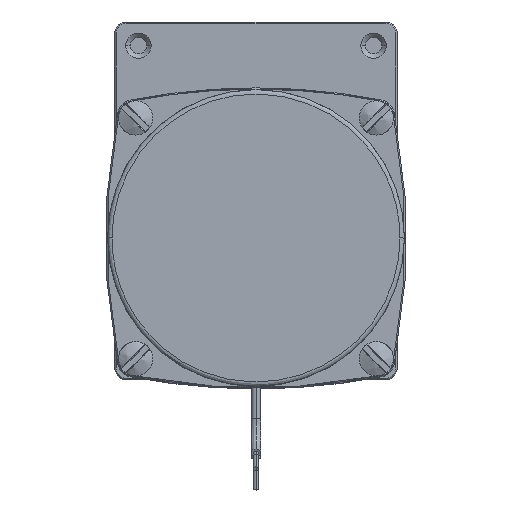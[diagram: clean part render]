
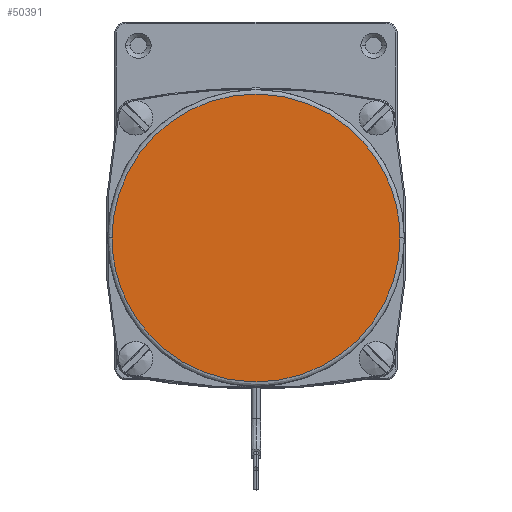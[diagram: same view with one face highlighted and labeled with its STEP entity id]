
A CAD part, top view. The second image highlights one B-rep face of the part: STEP entity #50391.
In plain terms, the highlighted planar face has unit normal (0, 0, 1).
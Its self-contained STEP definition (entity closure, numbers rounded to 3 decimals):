
#225 = CARTESIAN_POINT ( 'NONE',  ( -2.887, -1.509, 36.495 ) ) ;
#232 = CARTESIAN_POINT ( 'NONE',  ( -2.887, 4.265, 36.495 ) ) ;
#243 = CARTESIAN_POINT ( 'NONE',  ( 2.887, 4.265, 36.495 ) ) ;
#244 = CARTESIAN_POINT ( 'NONE',  ( 2.887, -1.509, 36.495 ) ) ;
#2981 = CARTESIAN_POINT ( 'NONE',  ( 2.887, -1.509, 36.495 ) ) ;
#2984 = CARTESIAN_POINT ( 'NONE',  ( -2.887, -1.509, 36.495 ) ) ;
#5071 = CARTESIAN_POINT ( 'NONE',  ( 0., -1.509, 36.495 ) ) ;
#5073 = PLANE ( 'NONE',  #24946 ) ;
#5076 = DIRECTION ( 'NONE',  ( 0., 0., 1. ) ) ;
#5077 = DIRECTION ( 'NONE',  ( 0., -1., 0. ) ) ;
#23558 = EDGE_CURVE ( 'NONE', #39879, #39882, #51870, .T. ) ;
#24946 = AXIS2_PLACEMENT_3D ( 'NONE', #5071, #5076, #5077 ) ;
#26987 = EDGE_CURVE ( 'NONE', #39882, #39879, #29968, .T. ) ;
#29968 =( BOUNDED_CURVE ( )  B_SPLINE_CURVE ( 3, ( #225, #232, #243, #244 ),
 .UNSPECIFIED., .F., .F. ) 
 B_SPLINE_CURVE_WITH_KNOTS ( ( 4, 4 ),
 ( 0., 0.5 ),
 .UNSPECIFIED. ) 
 CURVE ( )  GEOMETRIC_REPRESENTATION_ITEM ( )  RATIONAL_B_SPLINE_CURVE ( ( 1., 0.333, 0.333, 1. ) ) 
 REPRESENTATION_ITEM ( '' )  );
#30372 = CARTESIAN_POINT ( 'NONE',  ( 2.887, -7.282, 36.495 ) ) ;
#30373 = CARTESIAN_POINT ( 'NONE',  ( -2.887, -7.282, 36.495 ) ) ;
#30377 = CARTESIAN_POINT ( 'NONE',  ( 2.887, -1.509, 36.495 ) ) ;
#30378 = CARTESIAN_POINT ( 'NONE',  ( -2.887, -1.509, 36.495 ) ) ;
#31794 = FACE_OUTER_BOUND ( 'NONE', #56959, .T. ) ;
#39879 = VERTEX_POINT ( 'NONE', #2981 ) ;
#39882 = VERTEX_POINT ( 'NONE', #2984 ) ;
#46993 = ORIENTED_EDGE ( 'NONE', *, *, #26987, .F. ) ;
#46995 = ORIENTED_EDGE ( 'NONE', *, *, #23558, .F. ) ;
#50391 = ADVANCED_FACE ( 'NONE', ( #31794 ), #5073, .T. ) ;
#51870 =( BOUNDED_CURVE ( )  B_SPLINE_CURVE ( 3, ( #30377, #30372, #30373, #30378 ),
 .UNSPECIFIED., .F., .F. ) 
 B_SPLINE_CURVE_WITH_KNOTS ( ( 4, 4 ),
 ( 0.5, 1. ),
 .UNSPECIFIED. ) 
 CURVE ( )  GEOMETRIC_REPRESENTATION_ITEM ( )  RATIONAL_B_SPLINE_CURVE ( ( 1., 0.333, 0.333, 1. ) ) 
 REPRESENTATION_ITEM ( '' )  );
#56959 = EDGE_LOOP ( 'NONE', ( #46993, #46995 ) ) ;
